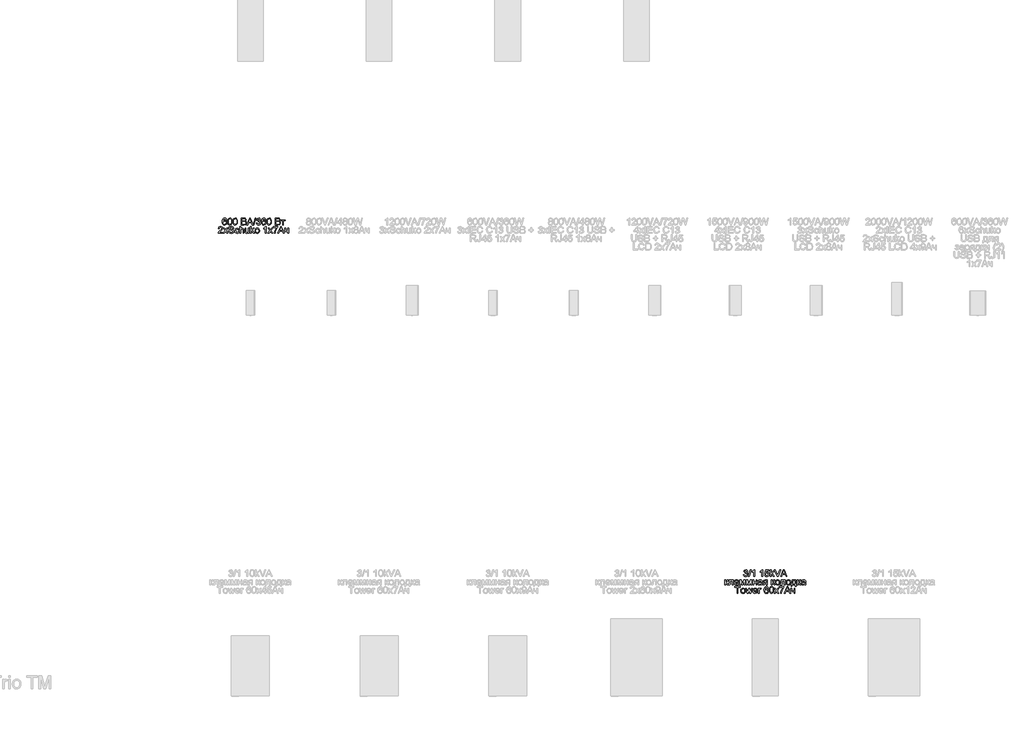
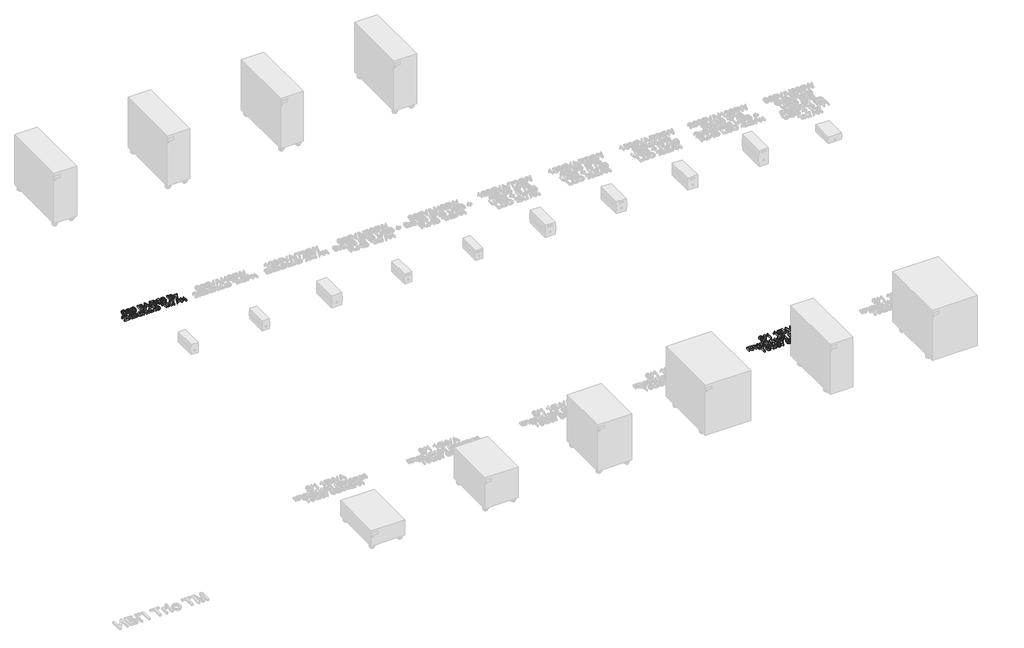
# One storey, part 37 of 74: 2 proxies.
"""IFC4 building model written with IfcOpenShell, lengths in millimetres."""

import ifcopenshell
import ifcopenshell.guid

model = None  # the IFC model being written
_history = None  # IfcOwnerHistory: only IFC2X3 demands one
_inside = {}  # id of a spatial element -> (the spatial element, [elements in it])
_under = {}  # id of a project, library or spatial element -> (it, [spatial elements below it])
_declared = {}  # id of a project -> (the project, [libraries it declares])
_typed = {}  # id of a type object -> (the type object, [elements of that type])
_made_of = {}  # id of a material, layer set ... -> (it, [elements and type objects made of it])


def new_model(schema):
    """Start an empty IFC model of exactly this schema.

    Asked for "IFC4X3", IfcOpenShell would pick the latest addendum, in which some entities
    have other attributes; the version numbers below select the first issue.
    IFC2X3 requires an IfcOwnerHistory on every rooted entity: one is made here for all.
    """
    global model, _history
    if schema == "IFC4X3":
        model = ifcopenshell.file(schema_version=(4, 3, 0, 0))
    else:
        model = ifcopenshell.file(schema=schema)
    _inside.clear()
    _under.clear()
    _declared.clear()
    _typed.clear()
    _made_of.clear()
    _history = None
    if model.schema == "IFC2X3":
        org = make("IfcOrganization", Name="unknown")
        user = make(
            "IfcPersonAndOrganization",
            ThePerson=make("IfcPerson", FamilyName="unknown"),
            TheOrganization=org,
        )
        app = make(
            "IfcApplication",
            ApplicationDeveloper=org,
            Version="unknown",
            ApplicationFullName="unknown",
            ApplicationIdentifier="unknown",
        )
        _history = make(
            "IfcOwnerHistory",
            OwningUser=user,
            OwningApplication=app,
            ChangeAction="ADDED",
            CreationDate=0,
        )
    return model


def make(cls, **values):
    """One entity of the class cls with the attributes given. An attribute that is None is left unset."""
    return model.create_entity(
        cls, **{name: value for name, value in values.items() if value is not None}
    )


def rooted(cls, **values):
    """An entity with a GlobalId (a new one), such as an element, a storey or a relation."""
    return make(cls, GlobalId=ifcopenshell.guid.new(), OwnerHistory=_history, **values)


def si_unit(unit_type, name, prefix=None):
    """IfcSIUnit, for example si_unit("LENGTHUNIT", "METRE", prefix="MILLI")."""
    return make("IfcSIUnit", UnitType=unit_type, Prefix=prefix, Name=name)


def assignment(units):
    """IfcUnitAssignment: the units of a project."""
    return None if units is None else make("IfcUnitAssignment", Units=units)


def point(xyz):
    """IfcCartesianPoint."""
    return None if xyz is None else make("IfcCartesianPoint", Coordinates=xyz)


def direction(xyz):
    """IfcDirection."""
    return None if xyz is None else make("IfcDirection", DirectionRatios=xyz)


def frame(location, z_axis=None, x_axis=None):
    """IfcAxis2Placement3D, a coordinate frame: its origin and axes. An axis left out is left unset."""
    return make(
        "IfcAxis2Placement3D",
        Location=point(location),
        Axis=direction(z_axis),
        RefDirection=direction(x_axis),
    )


def origin():
    """The frame at (0, 0, 0) with its axes left unset."""
    return frame((0.0, 0.0, 0.0))


def origin_with_axes():
    """The frame at (0, 0, 0) with the z axis (0, 0, 1) and the x axis (1, 0, 0) written out."""
    return frame((0.0, 0.0, 0.0), z_axis=(0.0, 0.0, 1.0), x_axis=(1.0, 0.0, 0.0))


def place(relative_to, where):
    """IfcLocalPlacement: puts the frame where relative to a parent placement (None: the world)."""
    return make(
        "IfcLocalPlacement", PlacementRelTo=relative_to, RelativePlacement=where
    )


def context(
    kind, dimensions, precision=None, world=None, true_north=None, identifier=None
):
    """IfcGeometricRepresentationContext, for example the 3D "Model" context."""
    return make(
        "IfcGeometricRepresentationContext",
        ContextIdentifier=identifier,
        ContextType=kind,
        CoordinateSpaceDimension=dimensions,
        Precision=precision,
        WorldCoordinateSystem=world,
        TrueNorth=true_north,
    )


def project(units=None, contexts=None):
    """IfcProject with its units and contexts."""
    return rooted(
        "IfcProject",
        Name="project",
        RepresentationContexts=contexts,
        UnitsInContext=assignment(units),
    )


def spatial(cls, under=None, at=None, **own):
    """A site, building, storey or space (cls), placed at a placement, below another one or the project."""
    s = rooted(cls, ObjectPlacement=at, **own)
    if under is not None:
        _under.setdefault(under.id(), (under, []))[1].append(s)
    return s


def polyline(points):
    """IfcPolyline through the points."""
    return make("IfcPolyline", Points=[point(p) for p in points])


def outline(outer, holes=None, kind="AREA"):
    """IfcArbitraryClosedProfileDef: a profile drawn as a closed curve; with holes, ...WithVoids."""
    if holes is None:
        return make("IfcArbitraryClosedProfileDef", ProfileType=kind, OuterCurve=outer)
    return make(
        "IfcArbitraryProfileDefWithVoids",
        ProfileType=kind,
        OuterCurve=outer,
        InnerCurves=holes,
    )


def extrude(swept, where, along, depth):
    """IfcExtrudedAreaSolid: the profile swept, set in the frame where, extruded along a direction by depth."""
    return make(
        "IfcExtrudedAreaSolid",
        SweptArea=swept,
        Position=where,
        ExtrudedDirection=direction(along),
        Depth=depth,
    )


def shape(context_of_items, identifier, shape_type, items):
    """IfcShapeRepresentation: the items that make up one representation, for example the "Body"."""
    return make(
        "IfcShapeRepresentation",
        ContextOfItems=context_of_items,
        RepresentationIdentifier=identifier,
        RepresentationType=shape_type,
        Items=items,
    )


def made_of(thing, what):
    """Note that an element or type object is made of a material, layer set ...; save() writes the relation."""
    if what is not None:
        _made_of.setdefault(what.id(), (what, []))[1].append(thing)
    return thing


def element(
    cls,
    number,
    at=None,
    inside=None,
    cuts=None,
    type_object=None,
    material=None,
    context=None,
    identifier="Body",
    shape_type=None,
    held_by="IfcProductDefinitionShape",
    body=None,
    shapes=None,
    **own,
):
    """One element of the class cls, such as IfcWall. Its Tag is "e" and its number.

    at: its placement. inside: the storey or other place that contains it. cuts: it is an
    opening in that element (IfcRelVoidsElement). A single representation is given by context,
    identifier, shape_type and body (its items); several are given by shapes. held_by: the class
    of the entity that holds the representations. save() writes the other relations.
    """
    e = rooted(cls, Tag="e%d" % number, ObjectPlacement=at, **own)
    if body is not None:
        shapes = [shape(context, identifier, shape_type, body)]
    if shapes is not None:
        e.Representation = make(held_by, Representations=shapes)
    if inside is not None:
        _inside.setdefault(inside.id(), (inside, []))[1].append(e)
    if cuts is not None:
        rooted(
            "IfcRelVoidsElement", RelatingBuildingElement=cuts, RelatedOpeningElement=e
        )
    if type_object is not None:
        _typed.setdefault(type_object.id(), (type_object, []))[1].append(e)
    return made_of(e, material)


def aggregate(whole, parts):
    """IfcRelAggregates: a whole, such as a stair, and the parts it consists of."""
    return rooted("IfcRelAggregates", RelatingObject=whole, RelatedObjects=parts)


def save(model, path):
    """Write the relations noted so far, then the file.

    IfcRelAggregates (storeys below a building ...), IfcRelContainedInSpatialStructure (elements
    in a storey), IfcRelDefinesByType, IfcRelAssociatesMaterial and IfcRelDeclares: one each for
    every whole, place, type object, material and project.
    """
    for whole, parts in _under.values():
        aggregate(whole, parts)
    for where, things in _inside.values():
        rooted(
            "IfcRelContainedInSpatialStructure",
            RelatedElements=things,
            RelatingStructure=where,
        )
    for kind, things in _typed.values():
        rooted("IfcRelDefinesByType", RelatedObjects=things, RelatingType=kind)
    for what, things in _made_of.values():
        rooted("IfcRelAssociatesMaterial", RelatedObjects=things, RelatingMaterial=what)
    for by, libraries in _declared.values():
        rooted("IfcRelDeclares", RelatingContext=by, RelatedDefinitions=libraries)
    model.write(path)


model = new_model("IFC4")

# Units and contexts
model_context = context("Model", 3, world=origin())
ifc_project = project(units=[si_unit("LENGTHUNIT", "METRE", prefix="MILLI")], contexts=[model_context])

# Site, building, storey
site = spatial("IfcSite", under=ifc_project)
building = spatial("IfcBuilding", under=site)
storey = spatial("IfcBuildingStorey", under=building, Name="Этаж 01", Elevation=0.0)

# Proxies
placement = place(None, origin())
element("IfcBuildingElementProxy", 1, Name="80 мм Arial", ObjectType="80 мм Arial", at=placement, inside=storey, context=model_context, shape_type="SweptSolid", body=[
    extrude(outline(polyline([(1078.0399553, -10967.6152437), (1067.9943243, -10968.8709476), (1064.1879719, -10960.4930483), (1054.1227205, -10956.3139089), (1045.0581081, -10958.7468351), (1038.2007877, -10967.8801188), (1035.3460235, -10985.7837092), (1044.2046219, -10977.7687868), (1055.1822206, -10975.149467), (1064.4626571, -10976.9398261), (1072.2519452, -10982.3109032), (1077.5347307, -10990.5171242), (1079.2956591, -11000.812915), (1075.9798161, -11014.6747086), (1066.8563426, -11024.4848951), (1053.6910723, -11027.8890298), (1042.2940881, -11025.6326869), (1033.217213, -11018.8636582), (1027.2795976, -11006.914851), (1025.3003924, -10989.1191726), (1027.4978742, -10969.1112972), (1034.0903196, -10955.4309921), (1043.0911657, -10948.5589564), (1054.7505724, -10946.2682778), (1063.565025, -10947.6858498), (1070.6234542, -10951.9385657), (1078.0399553, -10967.6152437)]), holes=[polyline([(1035.3460235, -11000.655952), (1037.6710377, -11009.3575875), (1043.8514552, -11015.6753476), (1052.9062574, -11017.8433988), (1064.7471525, -11013.3503334), (1069.2500281, -11001.1464613), (1064.8060136, -10989.4625292), (1052.4942295, -10985.195098), (1040.3394084, -10989.4625292), (1035.3460235, -11000.655952)])]), origin_with_axes(), (0.0, 0.0, 1.0), 20.0),
    extrude(outline(polyline([(1088.0855863, -10987.0982742), (1091.0384524, -10963.9756645), (1099.8087592, -10950.643621), (1114.4553677, -10946.2682778), (1126.1883508, -10948.8581671), (1134.2915649, -10956.323719), (1139.0004544, -10968.2136651), (1140.8251491, -10987.0982742), (1137.9017135, -11010.122782), (1129.1608373, -11023.4842561), (1114.4553677, -11027.8890298), (1104.0173292, -11025.9760435), (1096.0906985, -11020.2370843), (1090.0868643, -11006.6450709), (1088.0855863, -10987.0982742)]), holes=[polyline([(1098.1312173, -10987.0786538), (1099.3084397, -11002.8804118), (1102.8401068, -11012.0259582), (1114.4553677, -11017.8433988), (1126.0706286, -11012.0063378), (1129.6022957, -11002.8558863), (1130.7795181, -10987.0786538), (1129.6415365, -10971.6325151), (1126.2275915, -10962.4158449), (1120.9791417, -10957.8393929), (1114.3376455, -10956.3139089), (1102.9970698, -10961.6898911), (1099.3476804, -10971.4804572), (1098.1312173, -10987.0786538)])]), origin_with_axes(), (0.0, 0.0, 1.0), 20.0),
    extrude(outline(polyline([(1149.6150762, -10987.0982742), (1152.5679424, -10963.9756645), (1161.3382492, -10950.643621), (1175.9848577, -10946.2682778), (1187.7178408, -10948.8581671), (1195.8210548, -10956.323719), (1200.5299444, -10968.2136651), (1202.3546391, -10987.0982742), (1199.4312035, -11010.122782), (1190.6903273, -11023.4842561), (1175.9848577, -11027.8890298), (1165.5468192, -11025.9760435), (1157.6201885, -11020.2370843), (1151.6163543, -11006.6450709), (1149.6150762, -10987.0982742)]), holes=[polyline([(1159.6607073, -10987.0786538), (1160.8379296, -11002.8804118), (1164.3695968, -11012.0259582), (1175.9848577, -11017.8433988), (1187.6001185, -11012.0063378), (1191.1317857, -11002.8558863), (1192.3090081, -10987.0786538), (1191.1710264, -10971.6325151), (1187.7570815, -10962.4158449), (1182.5086317, -10957.8393929), (1175.8671354, -10956.3139089), (1164.5265598, -10961.6898911), (1160.8771704, -10971.4804572), (1159.6607073, -10987.0786538)])]), origin_with_axes(), (0.0, 0.0, 1.0), 20.0),
    extrude(outline(polyline([(1246.3042748, -11026.633326), (1246.3042748, -10946.2682778), (1276.9709179, -10946.2682778), (1291.9903135, -10948.6325328), (1300.8587221, -10955.901881), (1304.0666531, -10966.1829565), (1301.3688518, -10975.571305), (1293.2165868, -10982.6836903), (1303.115065, -10990.1786728), (1306.5780609, -11002.6768504), (1304.2138059, -11013.4778658), (1298.3571245, -11021.1690521), (1289.6162483, -11025.2500897), (1276.7354734, -11026.633326), (1246.3042748, -11026.633326)]), holes=[polyline([(1256.3499058, -10978.9165786), (1274.6949546, -10978.9165786), (1285.4076783, -10978.0532822), (1291.8529709, -10974.3352215), (1294.0210221, -10967.7918271), (1292.0001237, -10961.2386225), (1286.2121136, -10957.3635988), (1273.3019081, -10956.3139089), (1256.3499058, -10956.3139089), (1256.3499058, -10978.9165786)]), polyline([(1256.3499058, -11016.5876949), (1276.9512975, -11016.5876949), (1284.4070393, -11016.1952875), (1290.7149892, -11014.0076159), (1294.8941287, -11009.543981), (1296.5324298, -11002.7749523), (1294.6096333, -10994.9660438), (1288.3801648, -10990.3062052), (1275.9702789, -10988.9622097), (1256.3499058, -10988.9622097), (1256.3499058, -11016.5876949)])]), origin_with_axes(), (0.0, 0.0, 1.0), 20.0),
    extrude(outline(polyline([(1311.0318855, -11026.633326), (1343.1111955, -10946.2682778), (1351.6656782, -10946.2682778), (1383.7449882, -11026.633326), (1373.1303663, -11026.633326), (1363.9284114, -11001.5192484), (1330.828842, -11001.5192484), (1321.6465074, -11026.633326), (1311.0318855, -11026.633326)]), holes=[polyline([(1334.5174721, -10991.4736174), (1360.2594016, -10991.4736174), (1353.0194839, -10971.7159017), (1347.3884369, -10956.3139089), (1342.3852417, -10969.9893089), (1334.5174721, -10991.4736174)])]), origin_with_axes(), (0.0, 0.0, 1.0), 20.0),
    extrude(outline(polyline([(1385.6874051, -11026.633326), (1408.2900749, -10946.2682778), (1417.3546872, -10946.2682778), (1394.7520175, -11026.633326), (1385.6874051, -11026.633326)])), origin_with_axes(), (0.0, 0.0, 1.0), 20.0),
    extrude(outline(polyline([(1422.1028175, -11005.2863601), (1432.1484485, -11004.0306562), (1437.6912039, -11014.6060373), (1448.0605711, -11017.8433988), (1460.2644432, -11013.3895741), (1464.7967493, -11002.3629245), (1460.3036839, -10991.9739369), (1448.8846268, -10987.8634688), (1441.8409128, -10988.9622097), (1442.9592741, -10978.9165786), (1444.5681447, -10979.0343009), (1455.9675815, -10976.150106), (1461.0296377, -10967.2816974), (1457.3606279, -10959.423738), (1447.9036081, -10956.3139089), (1438.3288661, -10959.4531685), (1433.4041524, -10968.8709476), (1423.3585214, -10967.6152437), (1431.5794577, -10951.8600842), (1447.5504414, -10946.2682778), (1459.6660218, -10949.0249403), (1468.142023, -10956.5591635), (1471.0752687, -10966.6930862), (1468.2891758, -10975.9539023), (1460.0486191, -10982.6052088), (1470.9967872, -10989.4723394), (1474.8423804, -11002.5395078), (1472.9195838, -11012.330074), (1467.1511941, -11020.5117696), (1458.4446536, -11026.0447148), (1447.7074044, -11027.8890298), (1437.9953197, -11026.3144949), (1430.0883094, -11021.5908901), (1424.5896998, -11014.3656877), (1422.1028175, -11005.2863601)])), origin_with_axes(), (0.0, 0.0, 1.0), 20.0),
    extrude(outline(polyline([(1535.1161664, -10967.6152437), (1525.0705354, -10968.8709476), (1521.2641831, -10960.4930483), (1511.1989317, -10956.3139089), (1502.1343193, -10958.7468351), (1495.2769989, -10967.8801188), (1492.4222346, -10985.7837092), (1501.2808331, -10977.7687868), (1512.2584318, -10975.149467), (1521.5388683, -10976.9398261), (1529.3281564, -10982.3109032), (1534.6109418, -10990.5171242), (1536.3718703, -11000.812915), (1533.0560273, -11014.6747086), (1523.9325538, -11024.4848951), (1510.7672835, -11027.8890298), (1499.3702992, -11025.6326869), (1490.2934242, -11018.8636582), (1484.3558088, -11006.914851), (1482.3766036, -10989.1191726), (1484.5740854, -10969.1112972), (1491.1665308, -10955.4309921), (1500.1673769, -10948.5589564), (1511.8267836, -10946.2682778), (1520.6412362, -10947.6858498), (1527.6996654, -10951.9385657), (1535.1161664, -10967.6152437)]), holes=[polyline([(1492.4222346, -11000.655952), (1494.7472488, -11009.3575875), (1500.9276664, -11015.6753476), (1509.9824685, -11017.8433988), (1521.8233637, -11013.3503334), (1526.3262393, -11001.1464613), (1521.8822248, -10989.4625292), (1509.5704407, -10985.195098), (1497.4156196, -10989.4625292), (1492.4222346, -11000.655952)])]), origin_with_axes(), (0.0, 0.0, 1.0), 20.0),
    extrude(outline(polyline([(1545.1617975, -10987.0982742), (1548.1146636, -10963.9756645), (1556.8849704, -10950.643621), (1571.5315789, -10946.2682778), (1583.264562, -10948.8581671), (1591.3677761, -10956.323719), (1596.0766656, -10968.2136651), (1597.9013603, -10987.0982742), (1594.9779247, -11010.122782), (1586.2370485, -11023.4842561), (1571.5315789, -11027.8890298), (1561.0935404, -11025.9760435), (1553.1669097, -11020.2370843), (1547.1630755, -11006.6450709), (1545.1617975, -10987.0982742)]), holes=[polyline([(1555.2074285, -10987.0786538), (1556.3846509, -11002.8804118), (1559.916318, -11012.0259582), (1571.5315789, -11017.8433988), (1583.1468397, -11012.0063378), (1586.6785069, -11002.8558863), (1587.8557293, -10987.0786538), (1586.7177476, -10971.6325151), (1583.3038027, -10962.4158449), (1578.0553529, -10957.8393929), (1571.4138566, -10956.3139089), (1560.073281, -10961.6898911), (1556.4238916, -10971.4804572), (1555.2074285, -10987.0786538)])]), origin_with_axes(), (0.0, 0.0, 1.0), 20.0),
    extrude(outline(polyline([(1641.850996, -11026.633326), (1641.850996, -10946.2682778), (1672.5176391, -10946.2682778), (1687.5370347, -10948.6325328), (1696.4054433, -10955.901881), (1699.6133743, -10966.1829565), (1696.915573, -10975.571305), (1688.763308, -10982.6836903), (1698.6617862, -10990.1786728), (1702.1247821, -11002.6768504), (1699.7605271, -11013.4778658), (1693.9038458, -11021.1690521), (1685.1629695, -11025.2500897), (1672.2821946, -11026.633326), (1641.850996, -11026.633326)]), holes=[polyline([(1651.896627, -10978.9165786), (1670.2416758, -10978.9165786), (1680.9543995, -10978.0532822), (1687.3996921, -10974.3352215), (1689.5677433, -10967.7918271), (1687.5468449, -10961.2386225), (1681.7588348, -10957.3635988), (1668.8486293, -10956.3139089), (1651.896627, -10956.3139089), (1651.896627, -10978.9165786)]), polyline([(1651.896627, -11016.5876949), (1672.4980187, -11016.5876949), (1679.9537605, -11016.1952875), (1686.2617104, -11014.0076159), (1690.4408499, -11009.543981), (1692.0791511, -11002.7749523), (1690.1563545, -10994.9660438), (1683.926886, -10990.3062052), (1671.5170001, -10988.9622097), (1651.896627, -10988.9622097), (1651.896627, -11016.5876949)])]), origin_with_axes(), (0.0, 0.0, 1.0), 20.0),
    extrude(outline(polyline([(1709.6590053, -10967.6152437), (1757.3757527, -10967.6152437), (1757.3757527, -10977.6608748), (1738.5401945, -10977.6608748), (1738.5401945, -11026.633326), (1728.4945635, -11026.633326), (1728.4945635, -10977.6608748), (1709.6590053, -10977.6608748), (1709.6590053, -10967.6152437)])), origin_with_axes(), (0.0, 0.0, 1.0), 20.0),
    extrude(outline(polyline([(1030.3232079, -11114.1675492), (1030.3232079, -11124.2131802), (977.5836451, -11124.2131802), (978.6627656, -11117.2871885), (984.7647017, -11106.6235158), (997.3413608, -11094.9788244), (1014.6857706, -11078.2426461), (1019.0218731, -11066.8628297), (1014.9310253, -11057.6510646), (1004.2477321, -11053.8937631), (993.1131704, -11057.5627729), (988.88498, -11067.7065058), (978.839349, -11066.4508019), (981.2747278, -11056.7338121), (986.5403454, -11049.6361422), (994.3615166, -11045.2951346), (1004.4635562, -11043.8481321), (1014.6391722, -11045.4570027), (1022.4456282, -11050.2836145), (1027.4120351, -11057.4941016), (1029.0675041, -11066.2545982), (1027.2820501, -11075.7802893), (1021.3468873, -11085.6297166), (1006.9553436, -11099.3934083), (995.3989439, -11109.056442), (990.8666377, -11114.1675492), (1030.3232079, -11114.1675492)])), origin_with_axes(), (0.0, 0.0, 1.0), 20.0),
    extrude(outline(polyline([(1036.6017273, -11124.2131802), (1058.0664155, -11094.5471761), (1037.8574312, -11065.195098), (1049.943581, -11065.195098), (1059.6949064, -11079.3217666), (1064.246833, -11085.9926935), (1068.190528, -11080.5382298), (1079.2956591, -11065.195098), (1091.381809, -11065.195098), (1070.1525653, -11094.5471761), (1090.596994, -11124.2131802), (1078.5108442, -11124.2131802), (1066.2088703, -11106.3782611), (1063.9525274, -11103.1212792), (1048.6878771, -11124.2131802), (1036.6017273, -11124.2131802)])), origin_with_axes(), (0.0, 0.0, 1.0), 20.0),
    extrude(outline(polyline([(1096.8755134, -11096.5876949), (1106.9211444, -11096.5876949), (1110.158506, -11106.6431361), (1118.0655163, -11113.000137), (1130.1124254, -11115.4232531), (1140.609325, -11113.5887482), (1147.3881639, -11108.5463123), (1149.6150762, -11101.8067142), (1147.9473445, -11095.538005), (1141.1194547, -11090.9762682), (1126.4924666, -11087.1404853), (1110.7471172, -11082.1863411), (1102.2024447, -11074.710979), (1099.3869212, -11064.7242091), (1102.8695374, -11053.3542029), (1113.0427008, -11045.3294703), (1127.934564, -11042.5924282), (1143.8270662, -11045.4570027), (1154.4220677, -11053.8741428), (1158.4050034, -11066.4508019), (1148.3593724, -11066.4508019), (1142.6694642, -11056.1304857), (1128.3269715, -11052.6380593), (1113.945238, -11056.0912449), (1109.4325522, -11064.4299035), (1112.630673, -11071.3951359), (1129.0333049, -11077.0065626), (1146.8093629, -11082.0489985), (1156.5312578, -11090.1914533), (1159.6607073, -11101.5516493), (1156.0603688, -11113.5691278), (1145.7008118, -11122.3394346), (1130.5048329, -11125.4688841), (1112.5620017, -11122.0941799), (1101.2116159, -11111.9308267), (1096.8755134, -11096.5876949)])), origin_with_axes(), (0.0, 0.0, 1.0), 20.0),
    extrude(outline(polyline([(1211.1445662, -11102.8662143), (1221.1901972, -11104.1219182), (1218.389389, -11113.0565456), (1213.1262239, -11119.8084065), (1197.194481, -11125.4688841), (1186.5087353, -11123.4945841), (1178.1529089, -11117.571684), (1172.7597588, -11107.9601537), (1170.9620422, -11094.9199632), (1174.0326305, -11078.2328359), (1183.3915485, -11067.510302), (1197.0571383, -11063.9393941), (1212.3315988, -11068.8444874), (1219.9344934, -11082.7749523), (1209.8888623, -11084.0306562), (1205.2290237, -11076.5062431), (1197.1356198, -11073.9850252), (1185.4909284, -11078.9489796), (1181.0076732, -11094.645278), (1185.3928266, -11110.4887293), (1196.8609346, -11115.4232531), (1206.3277646, -11112.3428545), (1211.1445662, -11102.8662143)])), origin_with_axes(), (0.0, 0.0, 1.0), 20.0),
    extrude(outline(polyline([(1229.9801244, -11124.2131802), (1229.9801244, -11043.8481321), (1240.0257554, -11043.8481321), (1240.0257554, -11073.396414), (1247.8591893, -11066.3036491), (1257.5075078, -11063.9393941), (1268.7892223, -11066.5194732), (1275.6367325, -11073.6514788), (1277.6968717, -11086.8559899), (1277.6968717, -11124.2131802), (1267.6512407, -11124.2131802), (1267.6512407, -11087.8958697), (1264.4531199, -11077.3008682), (1255.3885075, -11073.9850252), (1247.157761, -11076.2217477), (1241.6640565, -11082.284443), (1240.0257554, -11092.8598241), (1240.0257554, -11124.2131802), (1229.9801244, -11124.2131802)])), origin_with_axes(), (0.0, 0.0, 1.0), 20.0),
    extrude(outline(polyline([(1329.1807306, -11124.2131802), (1329.1807306, -11114.0694474), (1321.312961, -11122.6190249), (1311.0515059, -11125.4688841), (1301.6042963, -11123.4676061), (1295.0903324, -11118.4447906), (1292.0982255, -11111.0479099), (1291.5096143, -11101.7086123), (1291.5096143, -11065.195098), (1301.5552453, -11065.195098), (1301.5552453, -11096.9801024), (1302.1634769, -11107.2219372), (1306.1366025, -11113.2355815), (1313.6217748, -11115.4232531), (1322.0094843, -11113.1865306), (1327.5522397, -11107.0944047), (1329.1807306, -11095.9009819), (1329.1807306, -11065.195098), (1339.2263617, -11065.195098), (1339.2263617, -11124.2131802), (1329.1807306, -11124.2131802)])), origin_with_axes(), (0.0, 0.0, 1.0), 20.0),
    extrude(outline(polyline([(1353.0391043, -11124.2131802), (1353.0391043, -11043.8481321), (1363.0847353, -11043.8481321), (1363.0847353, -11087.0325733), (1385.6089236, -11065.195098), (1399.5001477, -11065.195098), (1376.7012742, -11087.3072585), (1400.7558516, -11124.2131802), (1389.0228685, -11124.2131802), (1369.5005973, -11094.2921113), (1363.0847353, -11100.5117696), (1363.0847353, -11124.2131802), (1353.0391043, -11124.2131802)])), origin_with_axes(), (0.0, 0.0, 1.0), 20.0),
    extrude(outline(polyline([(1407.034371, -11094.7041391), (1409.2073273, -11080.4744636), (1415.7261963, -11070.4729784), (1423.7803594, -11065.5727902), (1433.4237728, -11063.9393941), (1443.977081, -11065.9284095), (1452.4064837, -11071.8954554), (1457.9320713, -11081.3696431), (1459.7739338, -11093.8800835), (1456.5169519, -11111.7542433), (1447.0305015, -11121.8685457), (1433.4237728, -11125.4688841), (1422.7429322, -11123.4872264), (1414.3233396, -11117.5422534), (1408.8566132, -11107.8694095), (1407.034371, -11094.7041391)]), holes=[polyline([(1417.080002, -11094.6845188), (1421.7300304, -11110.2532848), (1433.4237728, -11115.4232531), (1445.0782744, -11110.2238542), (1449.7283028, -11094.3705928), (1445.0488438, -11079.1549935), (1433.4237728, -11073.9850252), (1421.7300304, -11079.1353731), (1417.080002, -11094.6845188)])]), origin_with_axes(), (0.0, 0.0, 1.0), 20.0),
    extrude(outline(polyline([(1537.6275742, -11124.2131802), (1527.5819432, -11124.2131802), (1527.5819432, -11061.5849494), (1518.0660622, -11068.3637883), (1507.4906812, -11073.4356547), (1507.4906812, -11063.9393941), (1522.2157711, -11054.5412354), (1531.1528511, -11043.8481321), (1537.6275742, -11043.8481321), (1537.6275742, -11124.2131802)])), origin_with_axes(), (0.0, 0.0, 1.0), 20.0),
    extrude(outline(polyline([(1557.7188362, -11124.2131802), (1579.1835244, -11094.5471761), (1558.9745401, -11065.195098), (1571.0606899, -11065.195098), (1580.8120153, -11079.3217666), (1585.3639419, -11085.9926935), (1589.3076369, -11080.5382298), (1600.412768, -11065.195098), (1612.4989179, -11065.195098), (1591.2696742, -11094.5471761), (1611.7141029, -11124.2131802), (1599.6279531, -11124.2131802), (1587.3259792, -11106.3782611), (1585.0696363, -11103.1212792), (1569.804986, -11124.2131802), (1557.7188362, -11124.2131802)])), origin_with_axes(), (0.0, 0.0, 1.0), 20.0),
    extrude(outline(polyline([(1617.9926223, -11055.149467), (1617.9926223, -11045.103836), (1670.7321851, -11045.103836), (1670.7321851, -11053.2266704), (1655.7716507, -11074.8385114), (1644.323163, -11102.375705), (1640.5952921, -11124.2131802), (1630.5496611, -11124.2131802), (1634.542407, -11101.5516493), (1645.5003854, -11075.9372523), (1660.6865541, -11055.149467), (1617.9926223, -11055.149467)])), origin_with_axes(), (0.0, 0.0, 1.0), 20.0),
    extrude(outline(polyline([(1673.930306, -11124.2131802), (1706.0096159, -11043.8481321), (1714.5640986, -11043.8481321), (1746.6434086, -11124.2131802), (1736.0287867, -11124.2131802), (1726.8268318, -11099.0991027), (1693.7272624, -11099.0991027), (1684.5449278, -11124.2131802), (1673.930306, -11124.2131802)]), holes=[polyline([(1697.4158925, -11089.0534717), (1723.157822, -11089.0534717), (1715.9179043, -11069.295756), (1710.2868573, -11053.8937631), (1705.2836621, -11067.5691632), (1697.4158925, -11089.0534717)])]), origin_with_axes(), (0.0, 0.0, 1.0), 20.0),
    extrude(outline(polyline([(1752.3529371, -11065.195098), (1762.3985682, -11065.195098), (1762.3985682, -11076.5160533), (1763.2128136, -11087.1306751), (1767.1270781, -11092.8794444), (1774.8967458, -11095.3319911), (1788.7683496, -11092.2908332), (1788.7683496, -11065.195098), (1798.8139806, -11065.195098), (1798.8139806, -11124.2131802), (1788.7683496, -11124.2131802), (1788.7683496, -11101.9244364), (1772.2087547, -11105.3776221), (1760.8191281, -11101.7772836), (1754.1187707, -11092.9579259), (1752.3529371, -11081.4800077), (1752.3529371, -11065.195098)])), origin_with_axes(), (0.0, 0.0, 1.0), 20.0),
])
element("IfcBuildingElementProxy", 2, Name="80 мм Arial", ObjectType="80 мм Arial", at=placement, inside=storey, context=model_context, shape_type="SweptSolid", body=[
    extrude(outline(polyline([(7098.3137414, -15105.2863601), (7108.3593724, -15104.0306562), (7113.9021278, -15114.6060373), (7124.2714949, -15117.8433988), (7136.475367, -15113.3895741), (7141.0076732, -15102.3629245), (7136.5146077, -15091.9739369), (7125.0955506, -15087.8634688), (7118.0518367, -15088.9622097), (7119.1701979, -15078.9165786), (7120.7790685, -15079.0343009), (7132.1785053, -15076.150106), (7137.2405615, -15067.2816974), (7133.5715518, -15059.423738), (7124.114532, -15056.3139089), (7114.5397899, -15059.4531685), (7109.6150762, -15068.8709476), (7099.5694452, -15067.6152437), (7107.7903816, -15051.8600842), (7123.7613652, -15046.2682778), (7135.8769456, -15049.0249403), (7144.3529468, -15056.5591635), (7147.2861926, -15066.6930862), (7144.5000996, -15075.9539023), (7136.2595429, -15082.6052088), (7147.2077111, -15089.4723394), (7151.0533042, -15102.5395078), (7149.1305076, -15112.330074), (7143.3621179, -15120.5117696), (7134.6555774, -15126.0447148), (7123.9183282, -15127.8890298), (7114.2062435, -15126.3144949), (7106.2992332, -15121.5908901), (7100.8006236, -15114.3656877), (7098.3137414, -15105.2863601)])), origin_with_axes(), (0.0, 0.0, 1.0), 20.0),
    extrude(outline(polyline([(7154.8204158, -15126.633326), (7177.4230856, -15046.2682778), (7186.487698, -15046.2682778), (7163.8850282, -15126.633326), (7154.8204158, -15126.633326)])), origin_with_axes(), (0.0, 0.0, 1.0), 20.0),
    extrude(outline(polyline([(7228.9069446, -15126.633326), (7218.8613135, -15126.633326), (7218.8613135, -15064.0050951), (7209.3454326, -15070.783934), (7198.7700515, -15075.8558004), (7198.7700515, -15066.3595399), (7213.4951415, -15056.9613812), (7222.4322214, -15046.2682778), (7228.9069446, -15046.2682778), (7228.9069446, -15126.633326)])), origin_with_axes(), (0.0, 0.0, 1.0), 20.0),
    extrude(outline(polyline([(7321.8290314, -15126.633326), (7311.7834004, -15126.633326), (7311.7834004, -15064.0050951), (7302.2675195, -15070.783934), (7291.6921384, -15075.8558004), (7291.6921384, -15066.3595399), (7306.4172284, -15056.9613812), (7315.3543083, -15046.2682778), (7321.8290314, -15046.2682778), (7321.8290314, -15126.633326)])), origin_with_axes(), (0.0, 0.0, 1.0), 20.0),
    extrude(outline(polyline([(7345.6874051, -15105.2863601), (7355.7330361, -15104.0306562), (7360.7950924, -15114.380403), (7371.291992, -15117.8433988), (7383.8882715, -15113.0265972), (7388.3813369, -15100.2439242), (7384.1727669, -15088.3147373), (7371.4489549, -15083.9393941), (7362.6295973, -15085.6856074), (7356.98874, -15090.2179135), (7346.943109, -15088.9622097), (7355.7330361, -15047.5239817), (7394.6598563, -15047.5239817), (7394.6598563, -15057.5696127), (7363.8558706, -15057.5696127), (7359.5590089, -15079.7013936), (7374.2546683, -15073.8937631), (7383.6405643, -15075.6939324), (7391.4323049, -15081.0944401), (7396.6783022, -15089.3251866), (7398.4269679, -15099.6160722), (7396.852433, -15109.6617032), (7392.1288282, -15118.2554267), (7383.0838362, -15125.480629), (7371.2527512, -15127.8890298), (7361.3861561, -15126.3414729), (7353.5257441, -15121.6988021), (7348.1374992, -15114.5005778), (7345.6874051, -15105.2863601)])), origin_with_axes(), (0.0, 0.0, 1.0), 20.0),
    extrude(outline(polyline([(7409.7283028, -15126.633326), (7409.7283028, -15046.2682778), (7419.7739338, -15046.2682778), (7419.7739338, -15089.452719), (7442.2981221, -15067.6152437), (7456.1893463, -15067.6152437), (7433.3904728, -15089.7274042), (7457.4450501, -15126.633326), (7445.712067, -15126.633326), (7426.1897958, -15096.712257), (7419.7739338, -15102.9319153), (7419.7739338, -15126.633326), (7409.7283028, -15126.633326)])), origin_with_axes(), (0.0, 0.0, 1.0), 20.0),
    extrude(outline(polyline([(7491.2313326, -15126.633326), (7459.2501245, -15046.2682778), (7470.0020889, -15046.2682778), (7491.4079159, -15104.1679988), (7495.7440184, -15117.2155469), (7500.0212597, -15104.1679988), (7521.4859479, -15046.2682778), (7532.2379123, -15046.2682778), (7501.6105099, -15126.633326), (7491.2313326, -15126.633326)])), origin_with_axes(), (0.0, 0.0, 1.0), 20.0),
    extrude(outline(polyline([(7532.2182919, -15126.633326), (7564.2976019, -15046.2682778), (7572.8520846, -15046.2682778), (7604.9313946, -15126.633326), (7594.3167727, -15126.633326), (7585.1148177, -15101.5192484), (7552.0152484, -15101.5192484), (7542.8329138, -15126.633326), (7532.2182919, -15126.633326)]), holes=[polyline([(7555.7038785, -15091.4736174), (7581.445808, -15091.4736174), (7574.2058903, -15071.7159017), (7568.5748432, -15056.3139089), (7563.5716481, -15069.9893089), (7555.7038785, -15091.4736174)])]), origin_with_axes(), (0.0, 0.0, 1.0), 20.0),
    extrude(outline(polyline([(6933.1886815, -15165.195098), (6978.3940211, -15165.195098), (6978.3940211, -15224.1543191), (6968.3483901, -15224.1543191), (6968.3483901, -15175.240729), (6943.2343126, -15175.240729), (6943.2343126, -15203.3959644), (6942.5574097, -15216.3846514), (6938.839349, -15221.8685457), (6930.0494219, -15224.2131802), (6921.8873467, -15223.7030505), (6921.8873467, -15214.1675492), (6926.3804121, -15214.1675492), (6930.9225285, -15213.5495075), (6932.737413, -15211.5874702), (6933.1886815, -15202.8269736), (6933.1886815, -15165.195098)])), origin_with_axes(), (0.0, 0.0, 1.0), 20.0),
    extrude(outline(polyline([(6879.1934148, -15165.195098), (6889.2390459, -15165.195098), (6889.2390459, -15190.3091756), (6895.9688338, -15188.5041012), (6901.4821587, -15177.9875813), (6906.0635158, -15168.9131587), (6910.1053126, -15165.9602926), (6917.4531423, -15165.195098), (6919.3759389, -15165.195098), (6919.3759389, -15175.2995902), (6916.6683274, -15175.240729), (6911.7632341, -15176.3002292), (6908.3100485, -15182.9122949), (6904.2584414, -15190.0639209), (6898.5783434, -15193.5661575), (6904.9157239, -15197.4755168), (6911.1353822, -15205.7111684), (6921.8873467, -15224.2131802), (6910.4682895, -15224.2131802), (6899.9321492, -15206.1035759), (6894.6346485, -15198.4418202), (6889.2390459, -15196.5876949), (6889.2390459, -15224.2131802), (6879.1934148, -15224.2131802), (6879.1934148, -15165.195098)])), origin_with_axes(), (0.0, 0.0, 1.0), 20.0),
    extrude(outline(polyline([(7034.7829733, -15206.633326), (7044.6324006, -15207.8890298), (7035.4206355, -15220.8580964), (7018.2626192, -15225.4688841), (7006.4756801, -15223.4798688), (6997.4061626, -15217.5128228), (6991.6230577, -15207.9552486), (6989.695356, -15195.1946485), (6991.642678, -15182.0048527), (6997.4846441, -15172.1407101), (7006.4315342, -15165.9897231), (7017.6936284, -15163.9393941), (7028.6050084, -15165.984818), (7037.3238116, -15172.1210897), (7043.0406979, -15181.9656119), (7044.9463266, -15195.1357873), (7044.8874655, -15197.8433988), (6999.740987, -15197.8433988), (7005.5191869, -15210.8909469), (7018.4588229, -15215.4232531), (7028.3082502, -15213.3238732), (7034.7829733, -15206.633326)]), holes=[polyline([(6999.740987, -15187.7977678), (7034.9006956, -15187.7977678), (7030.8785191, -15178.6939147), (7017.6543876, -15173.9850252), (7005.2837424, -15177.7423266), (6999.740987, -15187.7977678)])]), origin_with_axes(), (0.0, 0.0, 1.0), 20.0),
    extrude(outline(polyline([(7054.9919576, -15165.195098), (7072.2775063, -15165.195098), (7085.5997396, -15212.4409564), (7099.9618527, -15165.195098), (7116.5214476, -15165.195098), (7116.5214476, -15224.2131802), (7106.4758166, -15224.2131802), (7106.4758166, -15176.6926366), (7092.035222, -15224.2131802), (7078.8503313, -15224.2131802), (7065.0375886, -15174.4166734), (7065.0375886, -15224.2131802), (7054.9919576, -15224.2131802), (7054.9919576, -15165.195098)])), origin_with_axes(), (0.0, 0.0, 1.0), 20.0),
    extrude(outline(polyline([(7131.5898941, -15165.195098), (7148.8754428, -15165.195098), (7162.1976761, -15212.4409564), (7176.5597892, -15165.195098), (7193.1193841, -15165.195098), (7193.1193841, -15224.2131802), (7183.073753, -15224.2131802), (7183.073753, -15176.6926366), (7168.6331585, -15224.2131802), (7155.4482678, -15224.2131802), (7141.6355251, -15174.4166734), (7141.6355251, -15224.2131802), (7131.5898941, -15224.2131802), (7131.5898941, -15165.195098)])), origin_with_axes(), (0.0, 0.0, 1.0), 20.0),
    extrude(outline(polyline([(7208.1878306, -15165.195098), (7218.2334616, -15165.195098), (7218.2334616, -15187.7977678), (7244.603243, -15187.7977678), (7244.603243, -15165.195098), (7254.648874, -15165.195098), (7254.648874, -15224.2131802), (7244.603243, -15224.2131802), (7244.603243, -15197.8433988), (7218.2334616, -15197.8433988), (7218.2334616, -15224.2131802), (7208.1878306, -15224.2131802), (7208.1878306, -15165.195098)])), origin_with_axes(), (0.0, 0.0, 1.0), 20.0),
    extrude(outline(polyline([(7307.3884369, -15216.678957), (7297.6469216, -15223.4872264), (7286.885147, -15225.4688841), (7272.2973996, -15220.7011335), (7267.2059128, -15208.5168818), (7269.1287094, -15200.5706307), (7274.1809554, -15194.802241), (7281.2148592, -15191.5060183), (7289.9066844, -15189.9952496), (7307.3295757, -15186.5420639), (7307.3884369, -15184.3053414), (7304.6219643, -15176.8888404), (7293.5168331, -15173.9850252), (7283.3534798, -15175.9176319), (7278.5072477, -15182.7749523), (7268.4616167, -15181.5192484), (7272.8075293, -15171.7090619), (7281.5582157, -15165.9602926), (7294.8117777, -15163.9393941), (7306.9862192, -15165.7248481), (7313.86316, -15170.2081033), (7316.9435585, -15177.026183), (7317.4340679, -15185.8161101), (7317.4340679, -15198.3142878), (7317.9441976, -15215.7666096), (7319.9454756, -15224.2131802), (7309.8998446, -15224.2131802), (7307.3884369, -15216.678957)]), holes=[polyline([(7307.3884369, -15196.5876949), (7291.1820087, -15199.6680935), (7282.5392344, -15201.2965845), (7278.6249699, -15203.9453348), (7277.2515438, -15207.8105483), (7280.2436507, -15213.2453917), (7289.0237677, -15215.4232531), (7299.1871209, -15213.0197574), (7305.7403255, -15207.2023168), (7307.3295757, -15199.432649), (7307.3884369, -15196.5876949)])]), origin_with_axes(), (0.0, 0.0, 1.0), 20.0),
    extrude(outline(polyline([(7376.4521501, -15165.195098), (7376.4521501, -15224.2131802), (7366.4065191, -15224.2131802), (7366.4065191, -15201.6105105), (7360.932435, -15201.6105105), (7353.4766932, -15202.8858347), (7346.47222, -15211.4599377), (7338.4671078, -15224.2131802), (7326.8518469, -15224.2131802), (7336.9367187, -15208.0852336), (7345.4912014, -15199.7269546), (7333.797459, -15193.6250186), (7329.9911066, -15182.2452022), (7335.1905055, -15169.9236079), (7350.2393317, -15165.195098), (7376.4521501, -15165.195098)]), holes=[polyline([(7366.4065191, -15175.240729), (7353.1627672, -15175.240729), (7342.4402334, -15177.5657432), (7340.0367377, -15183.0103968), (7343.578215, -15189.4949301), (7356.1254436, -15191.5648794), (7366.4065191, -15191.5648794), (7366.4065191, -15175.240729)])]), origin_with_axes(), (0.0, 0.0, 1.0), 20.0),
    extrude(outline(polyline([(7422.9131935, -15165.195098), (7432.9588245, -15165.195098), (7432.9588245, -15190.3091756), (7439.6886125, -15188.5041012), (7445.2019373, -15177.9875813), (7449.7832945, -15168.9131587), (7453.8250913, -15165.9602926), (7461.172921, -15165.195098), (7463.0957176, -15165.195098), (7463.0957176, -15175.2995902), (7460.3881061, -15175.240729), (7455.4830128, -15176.3002292), (7452.0298272, -15182.9122949), (7447.9782201, -15190.0639209), (7442.2981221, -15193.5661575), (7448.6355026, -15197.4755168), (7454.8551609, -15205.7111684), (7465.6071253, -15224.2131802), (7454.1880682, -15224.2131802), (7443.6519279, -15206.1035759), (7438.3544271, -15198.4418202), (7432.9588245, -15196.5876949), (7432.9588245, -15224.2131802), (7422.9131935, -15224.2131802), (7422.9131935, -15165.195098)])), origin_with_axes(), (0.0, 0.0, 1.0), 20.0),
    extrude(outline(polyline([(7469.374237, -15194.7041391), (7471.5471933, -15180.4744636), (7478.0660622, -15170.4729784), (7486.1202254, -15165.5727902), (7495.7636388, -15163.9393941), (7506.3169469, -15165.9284095), (7514.7463497, -15171.8954554), (7520.2719373, -15181.3696431), (7522.1137998, -15193.8800835), (7518.8568179, -15211.7542433), (7509.3703675, -15221.8685457), (7495.7636388, -15225.4688841), (7485.0827982, -15223.4872264), (7476.6632056, -15217.5422534), (7471.1964791, -15207.8694095), (7469.374237, -15194.7041391)]), holes=[polyline([(7479.419868, -15194.6845188), (7484.0698964, -15210.2532848), (7495.7636388, -15215.4232531), (7507.4181404, -15210.2238542), (7512.0681688, -15194.3705928), (7507.3887098, -15179.1549935), (7495.7636388, -15173.9850252), (7484.0698964, -15179.1353731), (7479.419868, -15194.6845188)])]), origin_with_axes(), (0.0, 0.0, 1.0), 20.0),
    extrude(outline(polyline([(7538.4379502, -15165.195098), (7583.6432898, -15165.195098), (7583.6432898, -15224.1543191), (7573.5976588, -15224.1543191), (7573.5976588, -15175.240729), (7548.4835812, -15175.240729), (7548.4835812, -15203.3959644), (7547.8066783, -15216.3846514), (7544.0886176, -15221.8685457), (7535.2986905, -15224.2131802), (7527.1366153, -15223.7030505), (7527.1366153, -15214.1675492), (7531.6296807, -15214.1675492), (7536.1717971, -15213.5495075), (7537.9866816, -15211.5874702), (7538.4379502, -15202.8269736), (7538.4379502, -15165.195098)])), origin_with_axes(), (0.0, 0.0, 1.0), 20.0),
    extrude(outline(polyline([(7596.2003285, -15194.7041391), (7598.3732849, -15180.4744636), (7604.8921538, -15170.4729784), (7612.946317, -15165.5727902), (7622.5897303, -15163.9393941), (7633.1430385, -15165.9284095), (7641.5724413, -15171.8954554), (7647.0980288, -15181.3696431), (7648.9398914, -15193.8800835), (7645.6829094, -15211.7542433), (7636.1964591, -15221.8685457), (7622.5897303, -15225.4688841), (7611.9088897, -15223.4872264), (7603.4892971, -15217.5422534), (7598.0225707, -15207.8694095), (7596.2003285, -15194.7041391)]), holes=[polyline([(7606.2459596, -15194.6845188), (7610.895988, -15210.2532848), (7622.5897303, -15215.4232531), (7634.2442319, -15210.2238542), (7638.8942603, -15194.3705928), (7634.2148014, -15179.1549935), (7622.5897303, -15173.9850252), (7610.895988, -15179.1353731), (7606.2459596, -15194.6845188)])]), origin_with_axes(), (0.0, 0.0, 1.0), 20.0),
    extrude(outline(polyline([(7669.0311534, -15165.195098), (7706.7022697, -15165.195098), (7706.7022697, -15214.1675492), (7714.236493, -15214.1675492), (7714.236493, -15240.5373306), (7704.1908619, -15240.5373306), (7704.1908619, -15224.2131802), (7662.752634, -15224.2131802), (7662.752634, -15240.5373306), (7652.707003, -15240.5373306), (7652.707003, -15214.1675492), (7658.9855224, -15214.1675492), (7666.7453799, -15195.0082549), (7669.0311534, -15165.195098)]), holes=[polyline([(7677.8210805, -15175.240729), (7675.4666358, -15198.1278942), (7670.2868573, -15214.1675492), (7696.6566387, -15214.1675492), (7696.6566387, -15175.240729), (7677.8210805, -15175.240729)])]), origin_with_axes(), (0.0, 0.0, 1.0), 20.0),
    extrude(outline(polyline([(7725.5378279, -15165.195098), (7735.5834589, -15165.195098), (7735.5834589, -15190.3091756), (7742.3132468, -15188.5041012), (7747.8265717, -15177.9875813), (7752.4079288, -15168.9131587), (7756.4497256, -15165.9602926), (7763.7975554, -15165.195098), (7765.7203519, -15165.195098), (7765.7203519, -15175.2995902), (7763.0127404, -15175.240729), (7758.1076472, -15176.3002292), (7754.6544615, -15182.9122949), (7750.6028545, -15190.0639209), (7744.9227565, -15193.5661575), (7751.260137, -15197.4755168), (7757.4797952, -15205.7111684), (7768.2317597, -15224.2131802), (7756.8127025, -15224.2131802), (7746.2765622, -15206.1035759), (7740.9790615, -15198.4418202), (7735.5834589, -15196.5876949), (7735.5834589, -15224.2131802), (7725.5378279, -15224.2131802), (7725.5378279, -15165.195098)])), origin_with_axes(), (0.0, 0.0, 1.0), 20.0),
    extrude(outline(polyline([(7812.1813954, -15216.678957), (7802.4398801, -15223.4872264), (7791.6781055, -15225.4688841), (7777.0903581, -15220.7011335), (7771.9988713, -15208.5168818), (7773.9216679, -15200.5706307), (7778.9739139, -15194.802241), (7786.0078177, -15191.5060183), (7794.6996429, -15189.9952496), (7812.1225342, -15186.5420639), (7812.1813954, -15184.3053414), (7809.4149228, -15176.8888404), (7798.3097916, -15173.9850252), (7788.1464383, -15175.9176319), (7783.3002062, -15182.7749523), (7773.2545752, -15181.5192484), (7777.6004878, -15171.7090619), (7786.3511742, -15165.9602926), (7799.6047362, -15163.9393941), (7811.7791777, -15165.7248481), (7818.6561185, -15170.2081033), (7821.736517, -15177.026183), (7822.2270264, -15185.8161101), (7822.2270264, -15198.3142878), (7822.7371561, -15215.7666096), (7824.7384341, -15224.2131802), (7814.6928031, -15224.2131802), (7812.1813954, -15216.678957)]), holes=[polyline([(7812.1813954, -15196.5876949), (7795.9749672, -15199.6680935), (7787.3321929, -15201.2965845), (7783.4179284, -15203.9453348), (7782.0445023, -15207.8105483), (7785.0366092, -15213.2453917), (7793.8167262, -15215.4232531), (7803.9800794, -15213.0197574), (7810.533284, -15207.2023168), (7812.1225342, -15199.432649), (7812.1813954, -15196.5876949)])]), origin_with_axes(), (0.0, 0.0, 1.0), 20.0),
    extrude(outline(polyline([(7022.9715087, -15321.7930345), (7022.9715087, -15251.4736174), (6996.6017273, -15251.4736174), (6996.6017273, -15241.4279864), (7059.3869212, -15241.4279864), (7059.3869212, -15251.4736174), (7033.0171398, -15251.4736174), (7033.0171398, -15321.7930345), (7022.9715087, -15321.7930345)])), origin_with_axes(), (0.0, 0.0, 1.0), 20.0),
    extrude(outline(polyline([(7066.9211444, -15292.2839934), (7069.0941008, -15278.0543178), (7075.6129697, -15268.0528327), (7083.6671329, -15263.1526445), (7093.3105462, -15261.5192484), (7103.8638544, -15263.5082637), (7112.2932572, -15269.4753097), (7117.8188447, -15278.9494974), (7119.6607073, -15291.4599377), (7116.4037253, -15309.3340976), (7106.917275, -15319.4483999), (7093.3105462, -15323.0487384), (7082.6297056, -15321.0670807), (7074.210113, -15315.1221077), (7068.7433866, -15305.4492637), (7066.9211444, -15292.2839934)]), holes=[polyline([(7076.9667754, -15292.264373), (7081.6168039, -15307.8331391), (7093.3105462, -15313.0031074), (7104.9650478, -15307.8037085), (7109.6150762, -15291.9504471), (7104.9356173, -15276.7348477), (7093.3105462, -15271.5648794), (7081.6168039, -15276.7152274), (7076.9667754, -15292.264373)])]), origin_with_axes(), (0.0, 0.0, 1.0), 20.0),
    extrude(outline(polyline([(7140.7526083, -15321.7930345), (7122.799967, -15262.7749523), (7133.2380054, -15262.7749523), (7143.4209791, -15297.208707), (7146.4621369, -15309.510681), (7148.9539243, -15297.6599756), (7157.0571383, -15262.7749523), (7169.0255659, -15262.7749523), (7177.0895393, -15297.5618738), (7179.3066414, -15308.2942178), (7182.4851419, -15296.9732626), (7192.6877359, -15262.7749523), (7203.1650151, -15262.7749523), (7185.0750311, -15321.7930345), (7172.9300202, -15321.7930345), (7165.2192135, -15287.1826964), (7162.982491, -15276.3914912), (7153.0349619, -15321.7930345), (7140.7526083, -15321.7930345)])), origin_with_axes(), (0.0, 0.0, 1.0), 20.0),
    extrude(outline(polyline([(7251.3918921, -15304.2131802), (7261.2413194, -15305.4688841), (7252.0295542, -15318.4379507), (7234.871538, -15323.0487384), (7223.0845988, -15321.0597231), (7214.0150814, -15315.0926771), (7208.2319764, -15305.5351029), (7206.3042748, -15292.7745027), (7208.2515968, -15279.5847069), (7214.0935629, -15269.7205644), (7223.040453, -15263.5695774), (7234.3025471, -15261.5192484), (7245.2139271, -15263.5646723), (7253.9327304, -15269.700944), (7259.6496166, -15279.5454662), (7261.5552453, -15292.7156416), (7261.4963842, -15295.4232531), (7216.3499058, -15295.4232531), (7222.1281057, -15308.4708012), (7235.0677417, -15313.0031074), (7244.917169, -15310.9037275), (7251.3918921, -15304.2131802)]), holes=[polyline([(7216.3499058, -15285.3776221), (7251.5096143, -15285.3776221), (7247.4874379, -15276.273769), (7234.2633064, -15271.5648794), (7221.8926612, -15275.3221809), (7216.3499058, -15285.3776221)])]), origin_with_axes(), (0.0, 0.0, 1.0), 20.0),
    extrude(outline(polyline([(7271.6008764, -15321.7930345), (7271.6008764, -15262.7749523), (7280.3908035, -15262.7749523), (7280.3908035, -15271.5060183), (7286.6300821, -15263.4616654), (7292.9086015, -15261.5192484), (7302.9934733, -15264.6192674), (7299.6383895, -15273.6250186), (7292.5750552, -15271.5648794), (7286.8949572, -15273.5465371), (7283.2749983, -15279.0402416), (7281.6465074, -15290.7732247), (7281.6465074, -15321.7930345), (7271.6008764, -15321.7930345)])), origin_with_axes(), (0.0, 0.0, 1.0), 20.0),
    extrude(outline(polyline([(7389.6370408, -15262.7749523), (7379.5914098, -15264.0306562), (7375.7850574, -15255.6527569), (7365.719806, -15251.4736174), (7356.6551936, -15253.9065437), (7349.7978733, -15263.0398273), (7346.943109, -15280.9434178), (7355.8017074, -15272.9284954), (7366.7793062, -15270.3091756), (7376.0597426, -15272.0995346), (7383.8490307, -15277.4706117), (7389.1318162, -15285.6768328), (7390.8927447, -15295.9726235), (7387.5769016, -15309.8344171), (7378.4534281, -15319.6446037), (7365.2881578, -15323.0487384), (7353.8911736, -15320.7923955), (7344.8142985, -15314.0233668), (7338.8766831, -15302.0745596), (7336.897478, -15284.2788812), (7339.0949597, -15264.2710057), (7345.6874051, -15250.5907006), (7354.6882512, -15243.7186649), (7366.3476579, -15241.4279864), (7375.1621106, -15242.8455583), (7382.2205398, -15247.0982742), (7389.6370408, -15262.7749523)]), holes=[polyline([(7346.943109, -15295.8156606), (7349.2681232, -15304.517296), (7355.4485407, -15310.8350561), (7364.5033429, -15313.0031074), (7376.344238, -15308.5100419), (7380.8471137, -15296.3061699), (7376.4030992, -15284.6222377), (7364.091315, -15280.3548066), (7351.9364939, -15284.6222377), (7346.943109, -15295.8156606)])]), origin_with_axes(), (0.0, 0.0, 1.0), 20.0),
    extrude(outline(polyline([(7399.6826718, -15282.2579828), (7402.635538, -15259.1353731), (7411.4058447, -15245.8033296), (7426.0524532, -15241.4279864), (7437.7854363, -15244.0178756), (7445.8886504, -15251.4834276), (7450.5975399, -15263.3733737), (7452.4222346, -15282.2579828), (7449.498799, -15305.2824906), (7440.7579228, -15318.6439646), (7426.0524532, -15323.0487384), (7415.6144147, -15321.135752), (7407.687784, -15315.3967929), (7401.6839499, -15301.8047794), (7399.6826718, -15282.2579828)]), holes=[polyline([(7409.7283028, -15282.2383624), (7410.9055252, -15298.0401204), (7414.4371924, -15307.1856668), (7426.0524532, -15313.0031074), (7437.6677141, -15307.1660464), (7441.1993812, -15298.0155949), (7442.3766036, -15282.2383624), (7441.238622, -15266.7922237), (7437.8246771, -15257.5755534), (7432.5762273, -15252.9991014), (7425.934731, -15251.4736174), (7414.5941553, -15256.8495996), (7410.944766, -15266.6401658), (7409.7283028, -15282.2383624)])]), origin_with_axes(), (0.0, 0.0, 1.0), 20.0),
    extrude(outline(polyline([(7457.4450501, -15321.7930345), (7478.9097383, -15292.1270304), (7458.700754, -15262.7749523), (7470.7869038, -15262.7749523), (7480.5382293, -15276.9016209), (7485.0901558, -15283.5725478), (7489.0338508, -15278.118084), (7500.138982, -15262.7749523), (7512.2251318, -15262.7749523), (7490.9958881, -15292.1270304), (7511.4403168, -15321.7930345), (7499.354167, -15321.7930345), (7487.0521931, -15303.9581154), (7484.7958502, -15300.7011335), (7469.5312, -15321.7930345), (7457.4450501, -15321.7930345)])), origin_with_axes(), (0.0, 0.0, 1.0), 20.0),
    extrude(outline(polyline([(7517.7188362, -15252.7293213), (7517.7188362, -15242.6836903), (7570.4583991, -15242.6836903), (7570.4583991, -15250.8065247), (7555.4978646, -15272.4183657), (7544.0493769, -15299.9555593), (7540.321506, -15321.7930345), (7530.275875, -15321.7930345), (7534.2686209, -15299.1315036), (7545.2265993, -15273.5171066), (7560.412768, -15252.7293213), (7517.7188362, -15252.7293213)])), origin_with_axes(), (0.0, 0.0, 1.0), 20.0),
    extrude(outline(polyline([(7573.6565199, -15321.7930345), (7605.7358299, -15241.4279864), (7614.2903125, -15241.4279864), (7646.3696225, -15321.7930345), (7635.7550007, -15321.7930345), (7626.5530457, -15296.678957), (7593.4534763, -15296.678957), (7584.2711417, -15321.7930345), (7573.6565199, -15321.7930345)]), holes=[polyline([(7597.1421064, -15286.633326), (7622.8840359, -15286.633326), (7615.6441183, -15266.8756103), (7610.0130712, -15251.4736174), (7605.009876, -15265.1490174), (7597.1421064, -15286.633326)])]), origin_with_axes(), (0.0, 0.0, 1.0), 20.0),
    extrude(outline(polyline([(7652.0791511, -15262.7749523), (7662.1247821, -15262.7749523), (7662.1247821, -15274.0959076), (7662.9390276, -15284.7105294), (7666.853292, -15290.4592987), (7674.6229597, -15292.9118453), (7688.4945635, -15289.8706875), (7688.4945635, -15262.7749523), (7698.5401945, -15262.7749523), (7698.5401945, -15321.7930345), (7688.4945635, -15321.7930345), (7688.4945635, -15299.5042907), (7671.9349686, -15302.9574764), (7660.545342, -15299.3571379), (7653.8449846, -15290.5377802), (7652.0791511, -15279.059862), (7652.0791511, -15262.7749523)])), origin_with_axes(), (0.0, 0.0, 1.0), 20.0),
])

save(model, "model.ifc")
